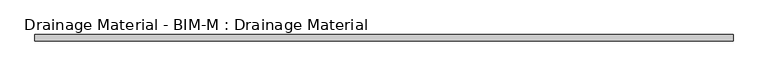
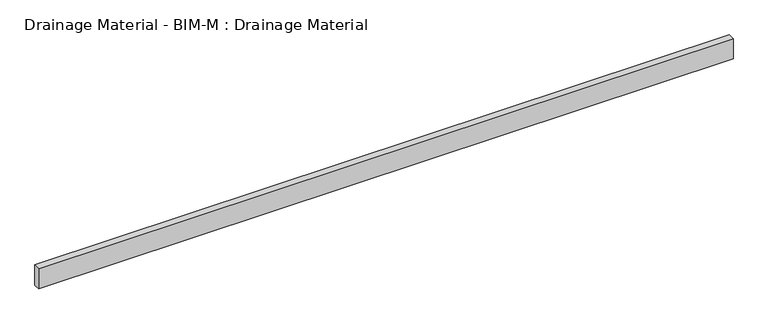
"""IFC4 building model written with IfcOpenShell, lengths in millimetres: proxy geometry, Drainage Material - BIM-M : Drainage Material."""

from ifc_helpers import new_model, si_unit, origin, origin_with_axes, place, context, project, spatial, polyline, outline, extrude, source, transform, mapped, element, save


def drainage_material_bim_m_drainage_material_2de0c3fb(model_context):
    return source(origin(), model_context, "Body", "SweptSolid", [
        extrude(outline(polyline([(2449.7161348, 22.225), (2449.7161348, -22.225), (-2449.7161348, -22.225), (-2449.7161348, 22.225), (2449.7161348, 22.225)])), origin_with_axes(), (0.0, 0.0, 1.0), 152.4),
    ])


if __name__ == "__main__":
    model = new_model("IFC4")
    model_context = context("Model", 3, world=origin())
    ifc_project = project(units=[si_unit("LENGTHUNIT", "METRE", prefix="MILLI")], contexts=[model_context])
    site = spatial("IfcSite", under=ifc_project)
    building = spatial("IfcBuilding", under=site)
    placement = place(None, origin())
    drainage_material_bim_m_drainage_material_shape = drainage_material_bim_m_drainage_material_2de0c3fb(model_context)
    element("IfcBuildingElementProxy", 1, Name="Drainage Material - BIM-M : Drainage Material", ObjectType="Drainage Material - BIM-M : Drainage Material", at=placement, inside=building, context=model_context, shape_type="MappedRepresentation", body=[
        mapped(drainage_material_bim_m_drainage_material_shape, transform((0.0, 0.0, 0.0), x_axis=(1.0, 0.0, 0.0), y_axis=(0.0, 1.0, 0.0), z_axis=(0.0, 0.0, 1.0))),
    ])
    save(model, "model.ifc")
